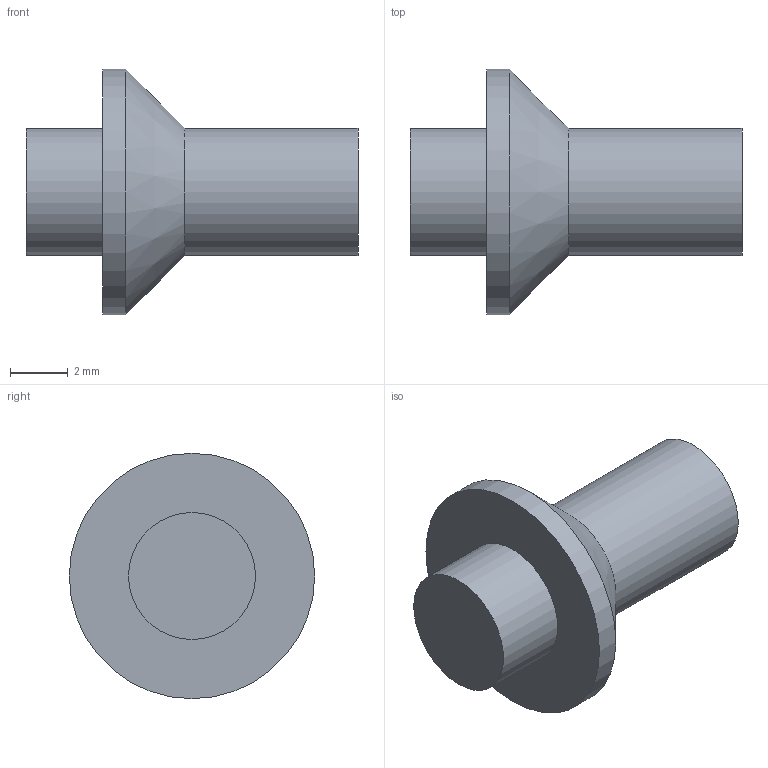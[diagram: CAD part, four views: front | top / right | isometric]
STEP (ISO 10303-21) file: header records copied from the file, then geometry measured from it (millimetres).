
FILE_DESCRIPTION(('Open CASCADE Model'),'2;1');
FILE_NAME('Open CASCADE Shape Model','2026-11-15T10:52:12',('Author'),( 'Open CASCADE'),'Open CASCADE STEP processor 7.8','Open CASCADE 7.8' ,'Unknown');
FILE_SCHEMA(('AUTOMOTIVE_DESIGN { 1 0 10303 214 1 1 1 1 }'));
Length unit declared in the file: millimetre
Products named in the file (1): Open CASCADE STEP translator 7.8 3
Bounding box: 11.5 x 8.5 x 8.5 mm (x, y, z)
Volume: 232.5 mm3; surface area: 303.7 mm2
Topology: 1 solids, 1 shells, 9 faces, 15 edges, 10 vertices
Faces by surface type: cylinder 4, plane 4, cone 1
Full cylindrical faces by diameter (mm): 1.7 x1, 4.4 x2, 8.5 x1
Entity records: 436 total; most frequent: CARTESIAN_POINT 89, DIRECTION 71, ORIENTED_EDGE 30, PCURVE 30, DEFINITIONAL_REPRESENTATION 30, LINE 29, VECTOR 29, AXIS2_PLACEMENT_3D 20
